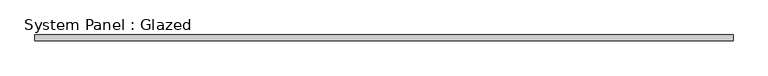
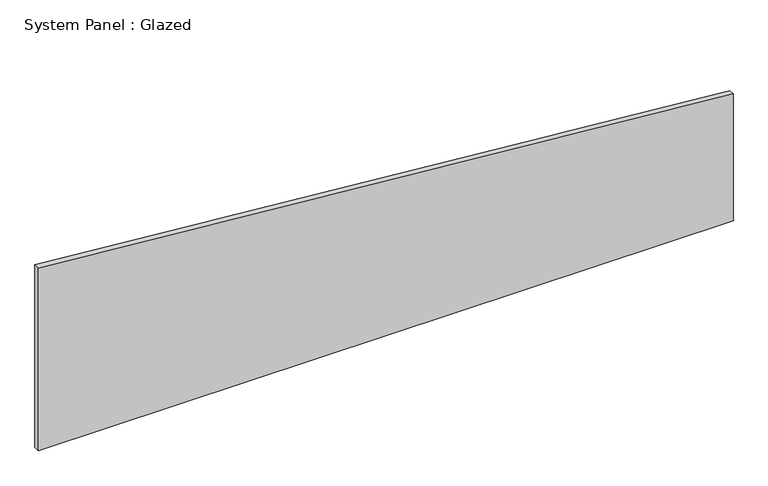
"""IFC4 building model written with IfcOpenShell, lengths in millimetres: plate geometry, System Panel : Glazed."""

from ifc_helpers import new_model, si_unit, frame, origin, place, context, project, spatial, polyline, outline, extrude, source, transform, mapped, element, save


def system_panel_glazed_d34325c2(model_context):
    return source(origin(), model_context, "Body", "SweptSolid", [
        extrude(outline(polyline([(0.0, -1504.95), (0.0, 1504.95), (580.5510269, 1504.95), (835.3785689, -1504.95), (0.0, -1504.95)])), frame((0.0, 19.05, 0.0), z_axis=(0.0, 1.0, 0.0), x_axis=(0.0, 0.0, 1.0)), (0.0, 0.0, 1.0), 25.4),
    ])


if __name__ == "__main__":
    model = new_model("IFC4")
    model_context = context("Model", 3, world=origin())
    ifc_project = project(units=[si_unit("LENGTHUNIT", "METRE", prefix="MILLI")], contexts=[model_context])
    site = spatial("IfcSite", under=ifc_project)
    building = spatial("IfcBuilding", under=site)
    placement = place(None, origin())
    system_panel_glazed_shape = system_panel_glazed_d34325c2(model_context)
    element("IfcPlate", 1, ObjectType="System Panel : Glazed", at=placement, inside=building, context=model_context, shape_type="MappedRepresentation", body=[
        mapped(system_panel_glazed_shape, transform((0.0, 0.0, 0.0), x_axis=(1.0, 0.0, 0.0), y_axis=(0.0, 1.0, 0.0), z_axis=(0.0, 0.0, 1.0))),
    ])
    save(model, "model.ifc")
